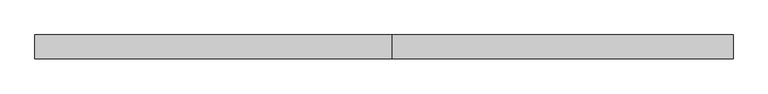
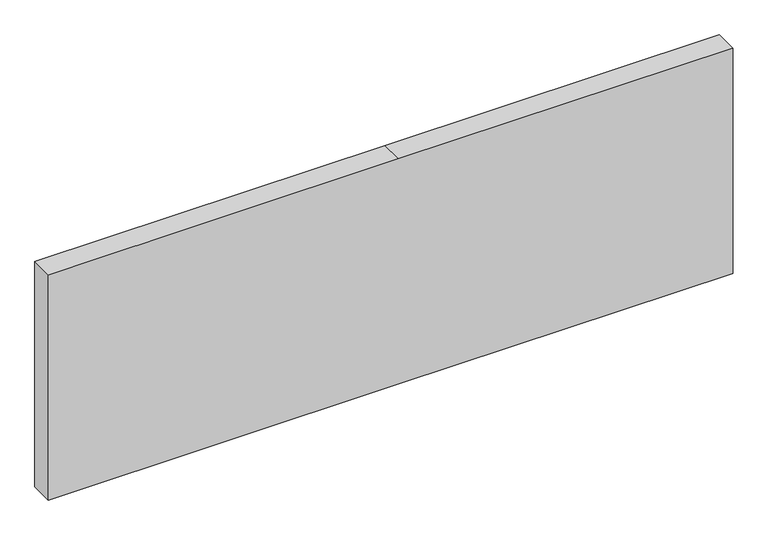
"""IFC4 building model written with IfcOpenShell, lengths in millimetres: plate geometry, Panneau système : Vitre 4cm."""

from ifc_helpers import new_model, si_unit, frame, origin, place, context, project, spatial, polyline, outline, extrude, source, transform, mapped, element, save


def plate_c5e4982c(model_context):
    return source(origin(), model_context, "Body", "SweptSolid", [
        extrude(outline(polyline([(0.0, -588.8255909), (0.0, 13.8255909), (0.0, 588.8255909), (410.0, 588.8255909), (410.0, 13.8255909), (410.0, -588.8255909), (0.0, -588.8255909)])), frame((0.0, -20.0, 0.0), z_axis=(0.0, 1.0, 0.0), x_axis=(0.0, 0.0, 1.0)), (0.0, 0.0, 1.0), 40.0),
    ])


if __name__ == "__main__":
    model = new_model("IFC4")
    model_context = context("Model", 3, world=origin())
    ifc_project = project(units=[si_unit("LENGTHUNIT", "METRE", prefix="MILLI")], contexts=[model_context])
    site = spatial("IfcSite", under=ifc_project)
    building = spatial("IfcBuilding", under=site)
    placement = place(None, origin())
    plate_shape = plate_c5e4982c(model_context)
    element("IfcPlate", 1, ObjectType="Panneau système : Vitre 4cm", at=placement, inside=building, context=model_context, shape_type="MappedRepresentation", body=[
        mapped(plate_shape, transform((0.0, 0.0, 0.0), x_axis=(1.0, 0.0, 0.0), y_axis=(0.0, 1.0, 0.0), z_axis=(0.0, 0.0, 1.0))),
    ])
    save(model, "model.ifc")
